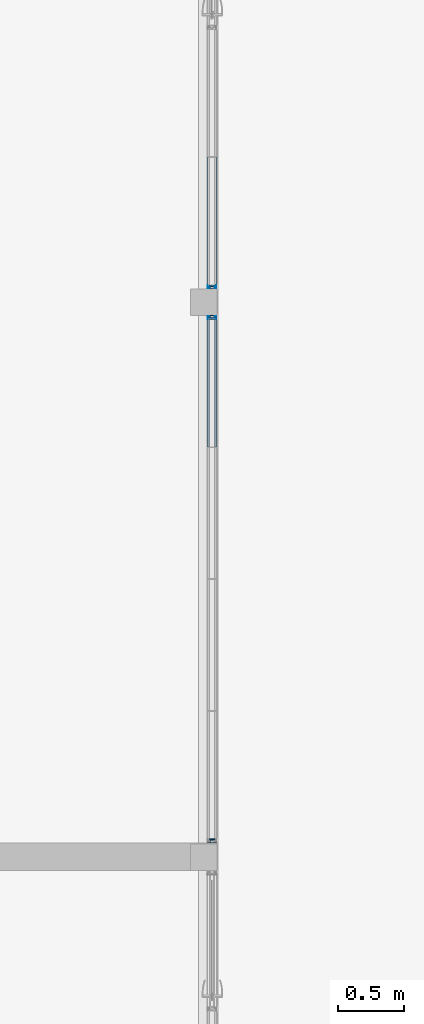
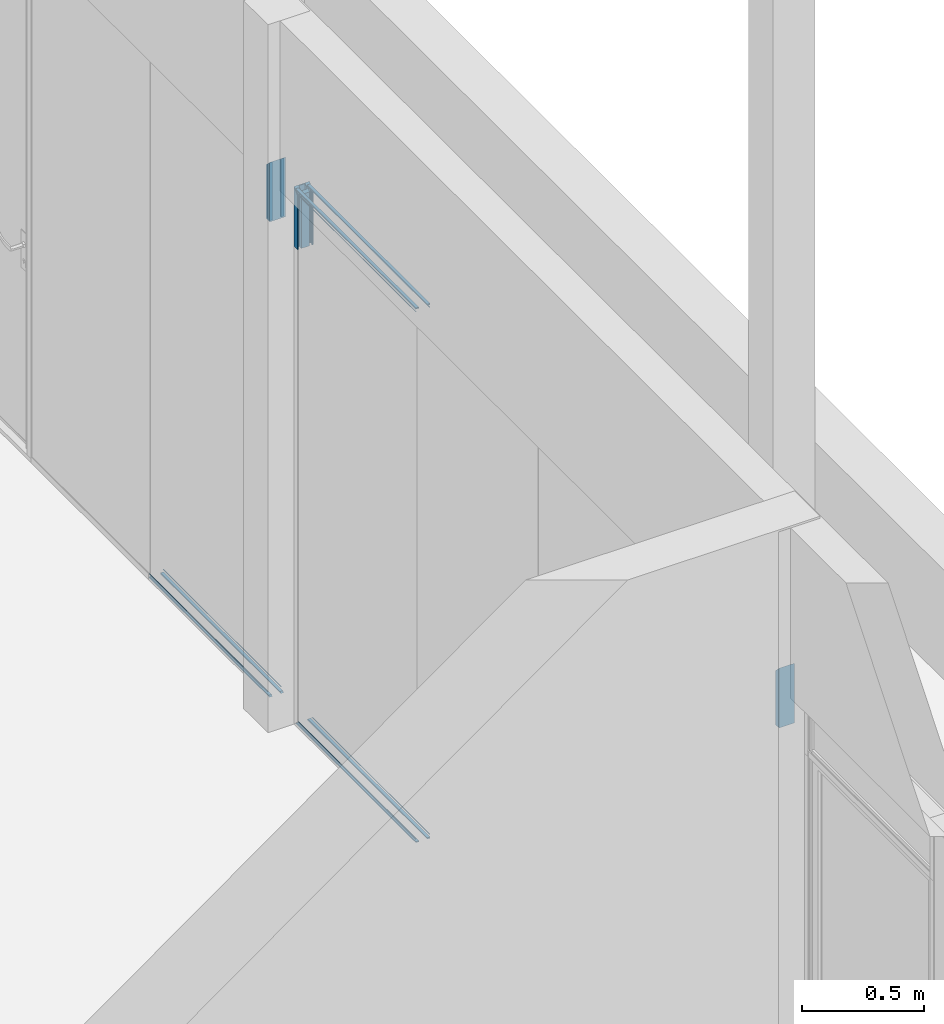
# One storey, part 46 of 65: 8 building element parts, 8 elements without a shape of their own.
"""IFC2X3 building model written with IfcOpenShell, lengths in millimetres."""

from ifc_helpers import new_model, entity, si_unit, converted_unit, derived_unit, money_unit, direction, frame, origin_with_axes, place, context, subcontext, project, spatial, faceted_brep, material, type_object, element, aggregate, save


model = new_model("IFC2X3")

# Units and contexts
model_context = context("Model", 3, precision=0.01, world=origin_with_axes(), true_north=direction((0.0, 1.0)))
body_context = subcontext(model_context, "Body", "Model", "MODEL_VIEW")
ifc_project = project(units=[si_unit("LENGTHUNIT", "METRE", prefix="MILLI"), si_unit("AREAUNIT", "SQUARE_METRE"), si_unit("VOLUMEUNIT", "CUBIC_METRE"), converted_unit("PLANEANGLEUNIT", "DEGREE", entity("IfcPlaneAngleMeasure", 0.0174532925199), si_unit("PLANEANGLEUNIT", "RADIAN"), dimensions=[0, 0, 0, 0, 0, 0, 0]), si_unit("SOLIDANGLEUNIT", "STERADIAN"), money_unit("EUR"), converted_unit("TIMEUNIT", "Year", entity("IfcTimeMeasure", 31556926.0), si_unit("TIMEUNIT", "SECOND"), dimensions=[0, 0, 1, 0, 0, 0, 0]), si_unit("MASSUNIT", "GRAM", prefix="KILO"), si_unit("THERMODYNAMICTEMPERATUREUNIT", "DEGREE_CELSIUS"), si_unit("LUMINOUSINTENSITYUNIT", "LUMEN"), si_unit("ENERGYUNIT", "JOULE", prefix="MEGA"), derived_unit("THERMALCONDUCTANCEUNIT", [(si_unit("POWERUNIT", "WATT"), 1), (si_unit("LENGTHUNIT", "METRE"), -1), (si_unit("THERMODYNAMICTEMPERATUREUNIT", "KELVIN"), -1)]), derived_unit("SPECIFICHEATCAPACITYUNIT", [(si_unit("ENERGYUNIT", "JOULE"), 1), (si_unit("MASSUNIT", "GRAM", prefix="KILO"), -1), (si_unit("THERMODYNAMICTEMPERATUREUNIT", "KELVIN"), -1)]), derived_unit("MASSDENSITYUNIT", [(si_unit("MASSUNIT", "GRAM", prefix="KILO"), 1), (si_unit("VOLUMEUNIT", "CUBIC_METRE"), -1)])], contexts=[model_context])

# Site, building, storey
site_placement = place(None, origin_with_axes())
site = spatial("IfcSite", under=ifc_project, at=site_placement, Name="Puškini 31, Narva", CompositionType="ELEMENT")
building_placement = place(site_placement, origin_with_axes())
building = spatial("IfcBuilding", under=site, at=building_placement, Name="Narva Riigigümnaasium", CompositionType="ELEMENT")
storey_placement = place(building_placement, frame((0.0, 0.0, -1320.0), z_axis=(0.0, 0.0, 1.0), x_axis=(1.0, 0.0, 0.0)))
storey = spatial("IfcBuildingStorey", under=building, at=storey_placement, Name="1.korrus -1.32", CompositionType="ELEMENT", Elevation=-1320.0)

# Curtain wall, members, building element parts
curtain_wall_type = type_object("IfcCurtainWallType", Name="Curtain Wall Type", PredefinedType="NOTDEFINED")
curtain_wall_1_placement = place(storey_placement, frame((30362.9999988, 168706.249936, -1.99739158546e-06), z_axis=(0.0, 0.0, 1.0), x_axis=(1.0, 0.0, 0.0)))
curtain_wall_1 = element("IfcCurtainWall", 1, at=curtain_wall_1_placement, inside=storey, type_object=curtain_wall_type, Name="G-SKLF-05")
member_type_1 = type_object("IfcMemberType", Name="Boundary Frame 30 x 37", PredefinedType="MULLION")
member_1_placement = place(curtain_wall_1_placement, frame((0.0, 2493.75008998, 2400.000002), z_axis=(0.0, 0.0, 1.0), x_axis=(0.0, -1.0, 0.0)))
member_1 = element("IfcMember", 2, at=member_1_placement, type_object=member_type_1, Name="G-SKLF-10-raam", ObjectType="MULLION")
ifc_material_1 = material(Name="Klaasvill")
building_element_part_1_placement = place(member_1_placement, origin_with_axes())
building_element_part_1 = element("IfcBuildingElementPart", 3, at=building_element_part_1_placement, material=ifc_material_1, Name="Klaasvill", context=body_context, shape_type="Brep", body=[
    faceted_brep([(7.49999990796, -20.000000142, 0.0), (7.49999990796, -20.000000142, 292.500088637), (13.8499999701, -20.000000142, 286.150088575), (13.8499999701, -20.000000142, 0.0), (7.49999990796, -34.0161444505, 0.0), (7.49999990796, -34.0161444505, 292.500088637), (13.8499999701, -34.0161444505, 286.150088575), (13.8499999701, -34.0161444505, 0.0)], [[[0, 1, 2, 3]], [[4, 5, 1, 0]], [[1, 5, 6, 2]], [[3, 2, 6, 7]], [[0, 3, 7, 4]], [[7, 6, 5, 4]]]),
    faceted_brep([(24.987414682, -34.0161444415, 0.0), (24.987414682, -34.0161444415, 275.012673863), (25.004489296, -32.0307503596, 274.995599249), (25.004489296, -32.0307503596, 0.0), (28.5126239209, -34.0161444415, 0.0), (28.5126239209, -34.0161444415, 271.487464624), (28.7655837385, -33.0385325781, 271.234504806), (28.4955493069, -32.0307503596, 271.504539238), (27.75780152, -31.2930025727, 272.242287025), (26.7500193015, -31.0229681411, 273.250069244), (25.742237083, -31.2930025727, 274.257851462), (25.742237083, -31.2930025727, 0.0), (26.7500193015, -31.0229681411, 0.0), (27.75780152, -31.2930025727, 0.0), (28.4955493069, -32.0307503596, 0.0), (28.7655837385, -33.0385325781, 0.0)], [[[0, 1, 2, 3]], [[4, 5, 1, 0]], [[1, 5, 6, 7, 8, 9, 10, 2]], [[3, 2, 10, 11]], [[0, 3, 11, 12, 13, 14, 15, 4]], [[15, 6, 5, 4]], [[14, 7, 6, 15]], [[13, 8, 7, 14]], [[12, 9, 8, 13]], [[11, 10, 9, 12]]]),
    faceted_brep([(7.49999990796, 19.9999997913, 0.0), (7.49999990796, 19.9999997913, 292.500088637), (7.49999990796, 34.0161445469, 292.500088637), (7.49999990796, 34.0161445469, 0.0), (13.8499999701, 19.9999997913, 0.0), (13.8499999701, 19.9999997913, 286.150088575), (13.8499999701, 34.0161445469, 286.150088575), (13.8499999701, 34.0161445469, 0.0)], [[[0, 1, 2, 3]], [[4, 5, 1, 0]], [[1, 5, 6, 2]], [[3, 2, 6, 7]], [[0, 3, 7, 4]], [[7, 6, 5, 4]]]),
    faceted_brep([(25.004489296, 32.0307503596, 0.0), (25.004489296, 32.0307503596, 274.995599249), (24.987414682, 34.0161444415, 275.012673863), (24.987414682, 34.0161444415, 0.0), (25.742237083, 31.2930025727, 0.0), (25.742237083, 31.2930025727, 274.257851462), (26.7500193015, 31.0229681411, 273.250069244), (27.75780152, 31.2930025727, 272.242287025), (28.4955493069, 32.0307503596, 271.504539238), (28.7655837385, 33.0385325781, 271.234504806), (28.5126239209, 34.0161444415, 271.487464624), (28.5126239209, 34.0161444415, 0.0), (28.7655837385, 33.0385325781, 0.0), (28.4955493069, 32.0307503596, 0.0), (27.75780152, 31.2930025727, 0.0), (26.7500193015, 31.0229681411, 0.0)], [[[0, 1, 2, 3]], [[4, 5, 1, 0]], [[1, 5, 6, 7, 8, 9, 10, 2]], [[3, 2, 10, 11]], [[0, 3, 11, 12, 13, 14, 15, 4]], [[15, 6, 5, 4]], [[14, 7, 6, 15]], [[13, 8, 7, 14]], [[12, 9, 8, 13]], [[11, 10, 9, 12]]]),
])
ifc_material_2 = material(Name="Teras RAL7012")
building_element_part_2_placement = place(member_1_placement, origin_with_axes())
building_element_part_2 = element("IfcBuildingElementPart", 4, at=building_element_part_2_placement, material=ifc_material_2, Name="Teras RAL7012", context=body_context, shape_type="Brep", body=[
    faceted_brep([(0.0, 17.0000000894, 0.0), (0.0, 17.0000000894, 300.000088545), (29.5999996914, 17.0000000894, 270.400088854), (29.5999996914, 17.0000000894, 0.0), (0.0, -17.0000000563, 0.0), (0.0, -17.0000000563, 300.000088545), (29.5999996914, -17.0000000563, 270.400088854), (1.99999991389, -15.0000001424, 298.000088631), (1.99999991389, 15.0000001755, 298.000088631), (18.7999996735, 15.0000001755, 281.200088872), (18.7999996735, -15.0000001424, 281.200088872), (29.5999996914, -17.0000000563, 0.0), (1.99999991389, -15.0000001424, 0.0), (18.7999996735, -15.0000001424, 0.0), (18.7999996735, 15.0000001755, 0.0), (1.99999991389, 15.0000001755, 0.0)], [[[0, 1, 2, 3]], [[4, 5, 1, 0]], [[1, 5, 6, 2], [7, 8, 9, 10]], [[3, 2, 6, 11]], [[0, 3, 11, 4], [12, 13, 14, 15]], [[11, 6, 5, 4]], [[15, 8, 7, 12]], [[14, 9, 8, 15]], [[13, 10, 9, 14]], [[12, 7, 10, 13]]]),
    faceted_brep([(0.0, -17.0, 0.0), (0.0, -17.0, 300.000088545), (29.5999996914, -17.0000000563, 270.400088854), (29.5999996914, -17.0000000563, 0.0), (0.0, -37.0, 0.0), (0.0, -37.0, 300.000088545), (30.0000193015, -37.0, 270.000069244), (30.0000193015, -34.0161444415, 270.000069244), (28.5126239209, -34.0161444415, 271.487464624), (24.987414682, -34.0161444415, 275.012673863), (13.8499999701, -34.0161444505, 286.150088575), (7.49999999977, -34.0161444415, 292.500088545), (7.49999999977, -20.0, 292.500088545), (13.8499999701, -20.000000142, 286.150088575), (30.0000193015, -20.0, 270.000069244), (30.0000193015, -17.0, 270.000069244), (30.0000193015, -17.0, 0.0), (30.0000193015, -20.0, 0.0), (13.8499999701, -20.000000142, 0.0), (7.49999999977, -20.0, 0.0), (7.49999999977, -34.0161444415, 0.0), (13.8499999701, -34.0161444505, 0.0), (24.987414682, -34.0161444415, 0.0), (28.5126239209, -34.0161444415, 0.0), (30.0000193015, -34.0161444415, 0.0), (30.0000193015, -37.0, 0.0)], [[[0, 1, 2, 3]], [[4, 5, 1, 0]], [[1, 5, 6, 7, 8, 9, 10, 11, 12, 13, 14, 15, 2]], [[3, 2, 15, 16]], [[0, 3, 16, 17, 18, 19, 20, 21, 22, 23, 24, 25, 4]], [[25, 6, 5, 4]], [[24, 7, 6, 25]], [[23, 8, 7, 24]], [[22, 9, 8, 23]], [[21, 10, 9, 22]], [[20, 11, 10, 21]], [[19, 12, 11, 20]], [[18, 13, 12, 19]], [[17, 14, 13, 18]], [[16, 15, 14, 17]]]),
    faceted_brep([(0.0, 17.0, 0.0), (0.0, 17.0, 300.000088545), (0.0, 37.0, 300.000088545), (0.0, 37.0, 0.0), (29.5999996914, 17.0000000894, 0.0), (29.5999996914, 17.0000000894, 270.400088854), (30.0000193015, 17.0, 270.000069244), (30.0000193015, 20.0, 270.000069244), (13.8499999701, 19.9999997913, 286.150088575), (7.49999999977, 20.0, 292.500088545), (7.49999999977, 34.0161444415, 292.500088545), (13.8499999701, 34.0161445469, 286.150088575), (24.987414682, 34.0161444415, 275.012673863), (28.5126239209, 34.0161444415, 271.487464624), (30.0000193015, 34.0161444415, 270.000069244), (30.0000193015, 37.0, 270.000069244), (30.0000193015, 37.0, 0.0), (30.0000193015, 34.0161444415, 0.0), (28.5126239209, 34.0161444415, 0.0), (24.987414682, 34.0161444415, 0.0), (13.8499999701, 34.0161445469, 0.0), (7.49999999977, 34.0161444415, 0.0), (7.49999999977, 20.0, 0.0), (13.8499999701, 19.9999997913, 0.0), (30.0000193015, 20.0, 0.0), (30.0000193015, 17.0, 0.0)], [[[0, 1, 2, 3]], [[4, 5, 1, 0]], [[1, 5, 6, 7, 8, 9, 10, 11, 12, 13, 14, 15, 2]], [[3, 2, 15, 16]], [[0, 3, 16, 17, 18, 19, 20, 21, 22, 23, 24, 25, 4]], [[25, 6, 5, 4]], [[24, 7, 6, 25]], [[23, 8, 7, 24]], [[22, 9, 8, 23]], [[21, 10, 9, 22]], [[20, 11, 10, 21]], [[19, 12, 11, 20]], [[18, 13, 12, 19]], [[17, 14, 13, 18]], [[16, 15, 14, 17]]]),
])
aggregate(member_1, [building_element_part_1, building_element_part_2])
member_2_placement = place(curtain_wall_1_placement, frame((0.0, 1496.25, 0.0), z_axis=(0.0, 1.0, 0.0), x_axis=(0.0, 0.0, 1.0)))
member_2 = element("IfcMember", 5, at=member_2_placement, type_object=member_type_1, Name="G-SKLF-08-raam", ObjectType="MULLION")
building_element_part_3_placement = place(member_2_placement, origin_with_axes())
building_element_part_3 = element("IfcBuildingElementPart", 6, at=building_element_part_3_placement, material=ifc_material_1, Name="Klaasvill", context=body_context, shape_type="Brep", body=[
    faceted_brep([(13.8499999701, -20.000000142, 0.692493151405), (7.49999990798, -20.000000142, 0.374996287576), (7.49999990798, -20.000000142, 990.000090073), (13.8499999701, -20.000000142, 983.65009001), (13.8499999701, -34.0161444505, 0.692493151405), (7.49999990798, -34.0161444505, 0.374996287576), (7.49999990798, -34.0161444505, 990.000090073), (13.8499999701, -34.0161444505, 983.65009001)], [[[0, 1, 2, 3]], [[1, 0, 4, 5]], [[1, 5, 6, 2]], [[2, 6, 7, 3]], [[4, 0, 3, 7]], [[5, 4, 7, 6]]]),
    faceted_brep([(25.004489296, -32.0307503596, 1.2502121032), (24.987414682, -34.0161444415, 1.24935838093), (24.987414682, -34.0161444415, 972.512675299), (25.004489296, -32.0307503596, 972.495600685), (25.742237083, -31.2930025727, 1.28709912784), (26.7500193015, -31.0229681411, 1.33748774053), (27.75780152, -31.2930025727, 1.38787635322), (28.4955493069, -32.0307503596, 1.42476337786), (28.7655837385, -33.0385325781, 1.43826496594), (28.5126239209, -34.0161444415, 1.42561710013), (28.5126239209, -34.0161444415, 968.98746606), (28.7655837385, -33.0385325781, 968.734506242), (28.4955493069, -32.0307503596, 969.004540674), (27.75780152, -31.2930025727, 969.742288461), (26.7500193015, -31.0229681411, 970.750070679), (25.742237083, -31.2930025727, 971.757852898)], [[[0, 1, 2, 3]], [[1, 0, 4, 5, 6, 7, 8, 9]], [[1, 9, 10, 2]], [[2, 10, 11, 12, 13, 14, 15, 3]], [[4, 0, 3, 15]], [[5, 4, 15, 14]], [[6, 5, 14, 13]], [[7, 6, 13, 12]], [[8, 7, 12, 11]], [[9, 8, 11, 10]]]),
    faceted_brep([(7.49999990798, 34.0161445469, 0.374996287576), (7.49999990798, 19.9999997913, 0.374996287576), (7.49999990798, 19.9999997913, 990.000090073), (7.49999990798, 34.0161445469, 990.000090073), (13.8499999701, 34.0161445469, 0.692493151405), (13.8499999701, 19.9999997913, 0.692493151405), (13.8499999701, 19.9999997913, 983.65009001), (13.8499999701, 34.0161445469, 983.65009001)], [[[0, 1, 2, 3]], [[1, 0, 4, 5]], [[1, 5, 6, 2]], [[2, 6, 7, 3]], [[4, 0, 3, 7]], [[5, 4, 7, 6]]]),
    faceted_brep([(24.987414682, 34.0161444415, 1.24935838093), (25.004489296, 32.0307503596, 1.2502121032), (25.004489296, 32.0307503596, 972.495600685), (24.987414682, 34.0161444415, 972.512675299), (28.5126239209, 34.0161444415, 1.42561710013), (28.7655837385, 33.0385325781, 1.43826496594), (28.4955493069, 32.0307503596, 1.42476337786), (27.75780152, 31.2930025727, 1.38787635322), (26.7500193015, 31.0229681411, 1.33748774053), (25.742237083, 31.2930025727, 1.28709912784), (25.742237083, 31.2930025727, 971.757852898), (26.7500193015, 31.0229681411, 970.750070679), (27.75780152, 31.2930025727, 969.742288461), (28.4955493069, 32.0307503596, 969.004540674), (28.7655837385, 33.0385325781, 968.734506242), (28.5126239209, 34.0161444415, 968.98746606)], [[[0, 1, 2, 3]], [[1, 0, 4, 5, 6, 7, 8, 9]], [[1, 9, 10, 2]], [[2, 10, 11, 12, 13, 14, 15, 3]], [[4, 0, 3, 15]], [[5, 4, 15, 14]], [[6, 5, 14, 13]], [[7, 6, 13, 12]], [[8, 7, 12, 11]], [[9, 8, 11, 10]]]),
])
aggregate(member_2, [building_element_part_3])
member_3_placement = place(curtain_wall_1_placement, frame((0.0, 1496.25, 2700.00009054), z_axis=(0.0, 1.0, 0.0), x_axis=(0.0, 0.0, 1.0)))
member_3 = element("IfcMember", 7, at=member_3_placement, type_object=member_type_1, Name="G-SKLF-11-raam", ObjectType="MULLION")
building_element_part_4_placement = place(member_3_placement, origin_with_axes())
building_element_part_4 = element("IfcBuildingElementPart", 8, at=building_element_part_4_placement, material=ifc_material_1, Name="Klaasvill", context=body_context, shape_type="Brep", body=[
    faceted_brep([(-13.8499999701, -20.000000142, 0.692493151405), (-13.8499999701, -20.000000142, 983.65009001), (-7.49999990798, -20.000000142, 990.000090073), (-7.49999990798, -20.000000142, 0.374996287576), (-13.8499999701, -34.0161444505, 0.692493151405), (-13.8499999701, -34.0161444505, 983.65009001), (-7.49999990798, -34.0161444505, 990.000090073), (-7.49999990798, -34.0161444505, 0.374996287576)], [[[0, 1, 2, 3]], [[4, 5, 1, 0]], [[2, 1, 5, 6]], [[3, 2, 6, 7]], [[3, 7, 4, 0]], [[7, 6, 5, 4]]]),
    faceted_brep([(-25.004489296, -32.0307503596, 1.2502121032), (-25.004489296, -32.0307503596, 972.495600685), (-24.987414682, -34.0161444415, 972.512675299), (-24.987414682, -34.0161444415, 1.24935838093), (-25.742237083, -31.2930025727, 1.28709912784), (-25.742237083, -31.2930025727, 971.757852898), (-26.7500193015, -31.0229681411, 970.750070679), (-27.75780152, -31.2930025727, 969.742288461), (-28.4955493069, -32.0307503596, 969.004540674), (-28.7655837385, -33.0385325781, 968.734506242), (-28.5126239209, -34.0161444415, 968.98746606), (-28.5126239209, -34.0161444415, 1.42561710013), (-28.7655837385, -33.0385325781, 1.43826496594), (-28.4955493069, -32.0307503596, 1.42476337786), (-27.75780152, -31.2930025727, 1.38787635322), (-26.7500193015, -31.0229681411, 1.33748774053)], [[[0, 1, 2, 3]], [[4, 5, 1, 0]], [[2, 1, 5, 6, 7, 8, 9, 10]], [[3, 2, 10, 11]], [[3, 11, 12, 13, 14, 15, 4, 0]], [[15, 6, 5, 4]], [[14, 7, 6, 15]], [[13, 8, 7, 14]], [[12, 9, 8, 13]], [[11, 10, 9, 12]]]),
    faceted_brep([(-7.49999990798, 34.0161445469, 0.374996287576), (-7.49999990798, 34.0161445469, 990.000090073), (-7.49999990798, 19.9999997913, 990.000090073), (-7.49999990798, 19.9999997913, 0.374996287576), (-13.8499999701, 34.0161445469, 0.692493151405), (-13.8499999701, 34.0161445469, 983.65009001), (-13.8499999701, 19.9999997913, 983.65009001), (-13.8499999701, 19.9999997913, 0.692493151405)], [[[0, 1, 2, 3]], [[4, 5, 1, 0]], [[2, 1, 5, 6]], [[3, 2, 6, 7]], [[3, 7, 4, 0]], [[7, 6, 5, 4]]]),
    faceted_brep([(-24.987414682, 34.0161444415, 1.24935838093), (-24.987414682, 34.0161444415, 972.512675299), (-25.004489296, 32.0307503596, 972.495600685), (-25.004489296, 32.0307503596, 1.2502121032), (-28.5126239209, 34.0161444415, 1.42561710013), (-28.5126239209, 34.0161444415, 968.98746606), (-28.7655837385, 33.0385325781, 968.734506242), (-28.4955493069, 32.0307503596, 969.004540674), (-27.75780152, 31.2930025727, 969.742288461), (-26.7500193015, 31.0229681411, 970.750070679), (-25.742237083, 31.2930025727, 971.757852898), (-25.742237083, 31.2930025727, 1.28709912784), (-26.7500193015, 31.0229681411, 1.33748774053), (-27.75780152, 31.2930025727, 1.38787635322), (-28.4955493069, 32.0307503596, 1.42476337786), (-28.7655837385, 33.0385325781, 1.43826496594)], [[[0, 1, 2, 3]], [[4, 5, 1, 0]], [[2, 1, 5, 6, 7, 8, 9, 10]], [[3, 2, 10, 11]], [[3, 11, 12, 13, 14, 15, 4, 0]], [[15, 6, 5, 4]], [[14, 7, 6, 15]], [[13, 8, 7, 14]], [[12, 9, 8, 13]], [[11, 10, 9, 12]]]),
])
aggregate(member_3, [building_element_part_4])
member_4_placement = place(curtain_wall_1_placement, frame((0.0, -1496.25, 2400.000002), z_axis=(0.0, 0.0, 1.0), x_axis=(0.0, -1.0, 0.0)))
member_4 = element("IfcMember", 9, at=member_4_placement, type_object=member_type_1, Name="G-SKLF-15-raam", ObjectType="MULLION")
aggregate(curtain_wall_1, [member_1, member_2, member_3, member_4])
building_element_part_5_placement = place(member_4_placement, origin_with_axes())
building_element_part_5 = element("IfcBuildingElementPart", 10, at=building_element_part_5_placement, material=ifc_material_2, Name="Teras RAL7012", context=body_context, shape_type="Brep", body=[
    faceted_brep([(0.0, 17.0000000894, 0.0), (-29.5999996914, 17.0000000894, 0.0), (-29.5999996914, 17.0000000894, 270.400088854), (0.0, 17.0000000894, 300.000088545), (0.0, -17.0000000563, 0.0), (-29.5999996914, -17.0000000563, 0.0), (-1.99999991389, -15.0000001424, 0.0), (-1.99999991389, 15.0000001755, 0.0), (-18.7999996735, 15.0000001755, 0.0), (-18.7999996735, -15.0000001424, 0.0), (-29.5999996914, -17.0000000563, 270.400088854), (0.0, -17.0000000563, 300.000088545), (-1.99999991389, -15.0000001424, 298.000088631), (-18.7999996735, -15.0000001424, 281.200088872), (-18.7999996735, 15.0000001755, 281.200088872), (-1.99999991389, 15.0000001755, 298.000088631)], [[[0, 1, 2, 3]], [[0, 4, 5, 1], [6, 7, 8, 9]], [[1, 5, 10, 2]], [[3, 2, 10, 11], [12, 13, 14, 15]], [[4, 0, 3, 11]], [[5, 4, 11, 10]], [[7, 6, 12, 15]], [[8, 7, 15, 14]], [[9, 8, 14, 13]], [[6, 9, 13, 12]]]),
    faceted_brep([(0.0, -17.0, 0.0), (-29.5999996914, -17.0000000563, 0.0), (-29.5999996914, -17.0000000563, 270.400088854), (0.0, -17.0, 300.000088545), (0.0, -37.0, 0.0), (-30.0000193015, -37.0, 0.0), (-30.0000193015, -34.0161444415, 0.0), (-28.5126239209, -34.0161444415, 0.0), (-24.987414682, -34.0161444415, 0.0), (-13.8499999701, -34.0161444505, 0.0), (-7.49999999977, -34.0161444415, 0.0), (-7.49999999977, -20.0, 0.0), (-13.8499999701, -20.000000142, 0.0), (-30.0000193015, -20.0, 0.0), (-30.0000193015, -17.0, 0.0), (-30.0000193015, -17.0, 270.000069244), (-30.0000193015, -20.0, 270.000069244), (-13.8499999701, -20.000000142, 286.150088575), (-7.49999999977, -20.0, 292.500088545), (-7.49999999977, -34.0161444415, 292.500088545), (-13.8499999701, -34.0161444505, 286.150088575), (-24.987414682, -34.0161444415, 275.012673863), (-28.5126239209, -34.0161444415, 271.487464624), (-30.0000193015, -34.0161444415, 270.000069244), (-30.0000193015, -37.0, 270.000069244), (0.0, -37.0, 300.000088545)], [[[0, 1, 2, 3]], [[0, 4, 5, 6, 7, 8, 9, 10, 11, 12, 13, 14, 1]], [[1, 14, 15, 2]], [[3, 2, 15, 16, 17, 18, 19, 20, 21, 22, 23, 24, 25]], [[4, 0, 3, 25]], [[5, 4, 25, 24]], [[6, 5, 24, 23]], [[7, 6, 23, 22]], [[8, 7, 22, 21]], [[9, 8, 21, 20]], [[10, 9, 20, 19]], [[11, 10, 19, 18]], [[12, 11, 18, 17]], [[13, 12, 17, 16]], [[14, 13, 16, 15]]]),
    faceted_brep([(0.0, 17.0, 0.0), (0.0, 37.0, 0.0), (0.0, 37.0, 300.000088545), (0.0, 17.0, 300.000088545), (-29.5999996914, 17.0000000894, 0.0), (-30.0000193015, 17.0, 0.0), (-30.0000193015, 20.0, 0.0), (-13.8499999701, 19.9999997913, 0.0), (-7.49999999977, 20.0, 0.0), (-7.49999999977, 34.0161444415, 0.0), (-13.8499999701, 34.0161445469, 0.0), (-24.987414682, 34.0161444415, 0.0), (-28.5126239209, 34.0161444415, 0.0), (-30.0000193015, 34.0161444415, 0.0), (-30.0000193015, 37.0, 0.0), (-30.0000193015, 37.0, 270.000069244), (-30.0000193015, 34.0161444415, 270.000069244), (-28.5126239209, 34.0161444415, 271.487464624), (-24.987414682, 34.0161444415, 275.012673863), (-13.8499999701, 34.0161445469, 286.150088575), (-7.49999999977, 34.0161444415, 292.500088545), (-7.49999999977, 20.0, 292.500088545), (-13.8499999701, 19.9999997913, 286.150088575), (-30.0000193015, 20.0, 270.000069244), (-30.0000193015, 17.0, 270.000069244), (-29.5999996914, 17.0000000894, 270.400088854)], [[[0, 1, 2, 3]], [[0, 4, 5, 6, 7, 8, 9, 10, 11, 12, 13, 14, 1]], [[1, 14, 15, 2]], [[3, 2, 15, 16, 17, 18, 19, 20, 21, 22, 23, 24, 25]], [[4, 0, 3, 25]], [[5, 4, 25, 24]], [[6, 5, 24, 23]], [[7, 6, 23, 22]], [[8, 7, 22, 21]], [[9, 8, 21, 20]], [[10, 9, 20, 19]], [[11, 10, 19, 18]], [[12, 11, 18, 17]], [[13, 12, 17, 16]], [[14, 13, 16, 15]]]),
])
aggregate(member_4, [building_element_part_5])

curtain_wall_2_placement = place(storey_placement, frame((30362.9999948, 171898.750025, 0.0), z_axis=(0.0, 0.0, 1.0), x_axis=(1.0, 0.0, 0.0)))
curtain_wall_2 = element("IfcCurtainWall", 11, at=curtain_wall_2_placement, inside=storey, type_object=curtain_wall_type, Name="G-SKLF-06")
member_type_2 = type_object("IfcMemberType", Name="30 x 37", PredefinedType="MULLION")
member_5_placement = place(curtain_wall_2_placement, frame((0.0, -498.75, 0.0), z_axis=(0.0, 1.0, 0.0), x_axis=(0.0, 0.0, 1.0)))
member_5 = element("IfcMember", 12, at=member_5_placement, type_object=member_type_2, Name="G-SKLF-06-raam", ObjectType="MULLION")
building_element_part_6_placement = place(member_5_placement, origin_with_axes())
building_element_part_6 = element("IfcBuildingElementPart", 13, at=building_element_part_6_placement, material=ifc_material_1, Name="Klaasvill", context=body_context, shape_type="Brep", body=[
    faceted_brep([(13.8499999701, 20.000000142, 13.8499999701), (13.8499999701, 20.000000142, 997.5), (7.49999990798, 20.000000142, 997.5), (7.49999990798, 20.000000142, 7.49999990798), (13.8499999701, 34.0161444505, 13.8499999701), (13.8499999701, 34.0161444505, 997.5), (7.49999990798, 34.0161444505, 997.5), (7.49999990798, 34.0161444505, 7.49999990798)], [[[0, 1, 2, 3]], [[4, 5, 1, 0]], [[2, 1, 5, 6]], [[3, 2, 6, 7]], [[3, 7, 4, 0]], [[7, 6, 5, 4]]]),
    faceted_brep([(25.004489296, 32.0307503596, 25.004489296), (25.004489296, 32.0307503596, 997.5), (24.987414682, 34.0161444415, 997.5), (24.987414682, 34.0161444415, 24.987414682), (25.742237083, 31.2930025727, 25.742237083), (25.742237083, 31.2930025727, 997.5), (26.7500193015, 31.0229681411, 997.5), (27.75780152, 31.2930025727, 997.5), (28.4955493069, 32.0307503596, 997.5), (28.7655837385, 33.0385325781, 997.5), (28.5126239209, 34.0161444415, 997.5), (28.5126239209, 34.0161444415, 28.5126239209), (28.7655837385, 33.0385325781, 28.7655837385), (28.4955493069, 32.0307503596, 28.4955493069), (27.75780152, 31.2930025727, 27.75780152), (26.7500193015, 31.0229681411, 26.7500193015)], [[[0, 1, 2, 3]], [[4, 5, 1, 0]], [[2, 1, 5, 6, 7, 8, 9, 10]], [[3, 2, 10, 11]], [[3, 11, 12, 13, 14, 15, 4, 0]], [[15, 6, 5, 4]], [[14, 7, 6, 15]], [[13, 8, 7, 14]], [[12, 9, 8, 13]], [[11, 10, 9, 12]]]),
    faceted_brep([(7.49999990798, -34.0161445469, 7.49999990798), (7.49999990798, -34.0161445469, 997.5), (7.49999990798, -19.9999997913, 997.5), (7.49999990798, -19.9999997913, 7.49999990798), (13.8499999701, -34.0161445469, 13.8499999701), (13.8499999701, -34.0161445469, 997.5), (13.8499999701, -19.9999997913, 997.5), (13.8499999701, -19.9999997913, 13.8499999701)], [[[0, 1, 2, 3]], [[4, 5, 1, 0]], [[2, 1, 5, 6]], [[3, 2, 6, 7]], [[3, 7, 4, 0]], [[7, 6, 5, 4]]]),
    faceted_brep([(24.987414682, -34.0161444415, 24.987414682), (24.987414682, -34.0161444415, 997.5), (25.004489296, -32.0307503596, 997.5), (25.004489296, -32.0307503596, 25.004489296), (28.5126239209, -34.0161444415, 28.5126239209), (28.5126239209, -34.0161444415, 997.5), (28.7655837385, -33.0385325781, 997.5), (28.4955493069, -32.0307503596, 997.5), (27.75780152, -31.2930025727, 997.5), (26.7500193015, -31.0229681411, 997.5), (25.742237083, -31.2930025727, 997.5), (25.742237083, -31.2930025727, 25.742237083), (26.7500193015, -31.0229681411, 26.7500193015), (27.75780152, -31.2930025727, 27.75780152), (28.4955493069, -32.0307503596, 28.4955493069), (28.7655837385, -33.0385325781, 28.7655837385)], [[[0, 1, 2, 3]], [[4, 5, 1, 0]], [[2, 1, 5, 6, 7, 8, 9, 10]], [[3, 2, 10, 11]], [[3, 11, 12, 13, 14, 15, 4, 0]], [[15, 6, 5, 4]], [[14, 7, 6, 15]], [[13, 8, 7, 14]], [[12, 9, 8, 13]], [[11, 10, 9, 12]]]),
])
aggregate(member_5, [building_element_part_6])
member_6_placement = place(curtain_wall_2_placement, frame((0.0, -498.75, 2400.0), z_axis=(0.0, 0.0, 1.0), x_axis=(0.0, -1.0, 0.0)))
member_6 = element("IfcMember", 14, at=member_6_placement, type_object=member_type_2, Name="G-SKLF-06-raam", ObjectType="MULLION")
aggregate(curtain_wall_2, [member_5, member_6])
building_element_part_7_placement = place(member_6_placement, origin_with_axes())
building_element_part_7 = element("IfcBuildingElementPart", 15, at=building_element_part_7_placement, material=ifc_material_1, Name="Klaasvill", context=body_context, shape_type="Brep", body=[
    faceted_brep([(-7.49999990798, 20.000000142, 0.0), (-7.49999990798, 20.000000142, 292.500000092), (-13.8499999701, 20.000000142, 286.15000003), (-13.8499999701, 20.000000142, 0.0), (-7.49999990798, 34.0161444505, 0.0), (-7.49999990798, 34.0161444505, 292.500000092), (-13.8499999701, 34.0161444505, 286.15000003), (-13.8499999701, 34.0161444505, 0.0)], [[[0, 1, 2, 3]], [[4, 5, 1, 0]], [[1, 5, 6, 2]], [[3, 2, 6, 7]], [[0, 3, 7, 4]], [[7, 6, 5, 4]]]),
    faceted_brep([(-24.987414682, 34.0161444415, 0.0), (-24.987414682, 34.0161444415, 275.012585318), (-25.004489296, 32.0307503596, 274.995510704), (-25.004489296, 32.0307503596, 0.0), (-28.5126239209, 34.0161444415, 0.0), (-28.5126239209, 34.0161444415, 271.487376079), (-28.7655837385, 33.0385325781, 271.234416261), (-28.4955493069, 32.0307503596, 271.504450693), (-27.75780152, 31.2930025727, 272.24219848), (-26.7500193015, 31.0229681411, 273.249980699), (-25.742237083, 31.2930025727, 274.257762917), (-25.742237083, 31.2930025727, 0.0), (-26.7500193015, 31.0229681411, 0.0), (-27.75780152, 31.2930025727, 0.0), (-28.4955493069, 32.0307503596, 0.0), (-28.7655837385, 33.0385325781, 0.0)], [[[0, 1, 2, 3]], [[4, 5, 1, 0]], [[1, 5, 6, 7, 8, 9, 10, 2]], [[3, 2, 10, 11]], [[0, 3, 11, 12, 13, 14, 15, 4]], [[15, 6, 5, 4]], [[14, 7, 6, 15]], [[13, 8, 7, 14]], [[12, 9, 8, 13]], [[11, 10, 9, 12]]]),
    faceted_brep([(-7.49999990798, -19.9999997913, 0.0), (-7.49999990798, -19.9999997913, 292.500000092), (-7.49999990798, -34.0161445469, 292.500000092), (-7.49999990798, -34.0161445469, 0.0), (-13.8499999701, -19.9999997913, 0.0), (-13.8499999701, -19.9999997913, 286.15000003), (-13.8499999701, -34.0161445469, 286.15000003), (-13.8499999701, -34.0161445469, 0.0)], [[[0, 1, 2, 3]], [[4, 5, 1, 0]], [[1, 5, 6, 2]], [[3, 2, 6, 7]], [[0, 3, 7, 4]], [[7, 6, 5, 4]]]),
    faceted_brep([(-25.004489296, -32.0307503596, 0.0), (-25.004489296, -32.0307503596, 274.995510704), (-24.987414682, -34.0161444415, 275.012585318), (-24.987414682, -34.0161444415, 0.0), (-25.742237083, -31.2930025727, 0.0), (-25.742237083, -31.2930025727, 274.257762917), (-26.7500193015, -31.0229681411, 273.249980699), (-27.75780152, -31.2930025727, 272.24219848), (-28.4955493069, -32.0307503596, 271.504450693), (-28.7655837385, -33.0385325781, 271.234416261), (-28.5126239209, -34.0161444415, 271.487376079), (-28.5126239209, -34.0161444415, 0.0), (-28.7655837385, -33.0385325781, 0.0), (-28.4955493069, -32.0307503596, 0.0), (-27.75780152, -31.2930025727, 0.0), (-26.7500193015, -31.0229681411, 0.0)], [[[0, 1, 2, 3]], [[4, 5, 1, 0]], [[1, 5, 6, 7, 8, 9, 10, 2]], [[3, 2, 10, 11]], [[0, 3, 11, 12, 13, 14, 15, 4]], [[15, 6, 5, 4]], [[14, 7, 6, 15]], [[13, 8, 7, 14]], [[12, 9, 8, 13]], [[11, 10, 9, 12]]]),
])
building_element_part_8_placement = place(member_6_placement, origin_with_axes())
building_element_part_8 = element("IfcBuildingElementPart", 16, at=building_element_part_8_placement, material=ifc_material_2, Name="Teras RAL7012", context=body_context, shape_type="Brep", body=[
    faceted_brep([(0.0, -17.0000000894, 0.0), (0.0, -17.0000000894, 300.0), (-29.5999996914, -17.0000000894, 270.400000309), (-29.5999996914, -17.0000000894, 0.0), (0.0, 17.0000000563, 0.0), (0.0, 17.0000000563, 300.0), (-29.5999996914, 17.0000000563, 270.400000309), (-1.9999999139, 15.0000001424, 298.000000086), (-1.9999999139, -15.0000001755, 298.000000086), (-18.7999996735, -15.0000001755, 281.200000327), (-18.7999996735, 15.0000001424, 281.200000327), (-29.5999996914, 17.0000000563, 0.0), (-1.9999999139, 15.0000001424, 0.0), (-18.7999996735, 15.0000001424, 0.0), (-18.7999996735, -15.0000001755, 0.0), (-1.9999999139, -15.0000001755, 0.0)], [[[0, 1, 2, 3]], [[4, 5, 1, 0]], [[1, 5, 6, 2], [7, 8, 9, 10]], [[3, 2, 6, 11]], [[0, 3, 11, 4], [12, 13, 14, 15]], [[11, 6, 5, 4]], [[15, 8, 7, 12]], [[14, 9, 8, 15]], [[13, 10, 9, 14]], [[12, 7, 10, 13]]]),
    faceted_brep([(0.0, 17.0, 0.0), (0.0, 17.0, 300.0), (-29.5999996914, 17.0000000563, 270.400000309), (-29.5999996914, 17.0000000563, 0.0), (0.0, 37.0, 0.0), (0.0, 37.0, 300.0), (-30.0000193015, 37.0, 269.999980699), (-30.0000193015, 34.0161444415, 269.999980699), (-28.5126239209, 34.0161444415, 271.487376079), (-24.987414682, 34.0161444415, 275.012585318), (-13.8499999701, 34.0161444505, 286.15000003), (-7.49999999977, 34.0161444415, 292.5), (-7.49999999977, 20.0, 292.5), (-13.8499999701, 20.000000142, 286.15000003), (-30.0000193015, 20.0, 269.999980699), (-30.0000193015, 17.0, 269.999980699), (-30.0000193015, 17.0, 0.0), (-30.0000193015, 20.0, 0.0), (-13.8499999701, 20.000000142, 0.0), (-7.49999999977, 20.0, 0.0), (-7.49999999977, 34.0161444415, 0.0), (-13.8499999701, 34.0161444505, 0.0), (-24.987414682, 34.0161444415, 0.0), (-28.5126239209, 34.0161444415, 0.0), (-30.0000193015, 34.0161444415, 0.0), (-30.0000193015, 37.0, 0.0)], [[[0, 1, 2, 3]], [[4, 5, 1, 0]], [[1, 5, 6, 7, 8, 9, 10, 11, 12, 13, 14, 15, 2]], [[3, 2, 15, 16]], [[0, 3, 16, 17, 18, 19, 20, 21, 22, 23, 24, 25, 4]], [[25, 6, 5, 4]], [[24, 7, 6, 25]], [[23, 8, 7, 24]], [[22, 9, 8, 23]], [[21, 10, 9, 22]], [[20, 11, 10, 21]], [[19, 12, 11, 20]], [[18, 13, 12, 19]], [[17, 14, 13, 18]], [[16, 15, 14, 17]]]),
    faceted_brep([(0.0, -17.0, 0.0), (0.0, -17.0, 300.0), (0.0, -37.0, 300.0), (0.0, -37.0, 0.0), (-29.5999996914, -17.0000000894, 0.0), (-29.5999996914, -17.0000000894, 270.400000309), (-30.0000193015, -17.0, 269.999980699), (-30.0000193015, -20.0, 269.999980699), (-13.8499999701, -19.9999997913, 286.15000003), (-7.49999999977, -20.0, 292.5), (-7.49999999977, -34.0161444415, 292.5), (-13.8499999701, -34.0161445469, 286.15000003), (-24.987414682, -34.0161444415, 275.012585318), (-28.5126239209, -34.0161444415, 271.487376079), (-30.0000193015, -34.0161444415, 269.999980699), (-30.0000193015, -37.0, 269.999980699), (-30.0000193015, -37.0, 0.0), (-30.0000193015, -34.0161444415, 0.0), (-28.5126239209, -34.0161444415, 0.0), (-24.987414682, -34.0161444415, 0.0), (-13.8499999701, -34.0161445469, 0.0), (-7.49999999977, -34.0161444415, 0.0), (-7.49999999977, -20.0, 0.0), (-13.8499999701, -19.9999997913, 0.0), (-30.0000193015, -20.0, 0.0), (-30.0000193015, -17.0, 0.0)], [[[0, 1, 2, 3]], [[4, 5, 1, 0]], [[1, 5, 6, 7, 8, 9, 10, 11, 12, 13, 14, 15, 2]], [[3, 2, 15, 16]], [[0, 3, 16, 17, 18, 19, 20, 21, 22, 23, 24, 25, 4]], [[25, 6, 5, 4]], [[24, 7, 6, 25]], [[23, 8, 7, 24]], [[22, 9, 8, 23]], [[21, 10, 9, 22]], [[20, 11, 10, 21]], [[19, 12, 11, 20]], [[18, 13, 12, 19]], [[17, 14, 13, 18]], [[16, 15, 14, 17]]]),
])
aggregate(member_6, [building_element_part_7, building_element_part_8])

save(model, "model.ifc")
